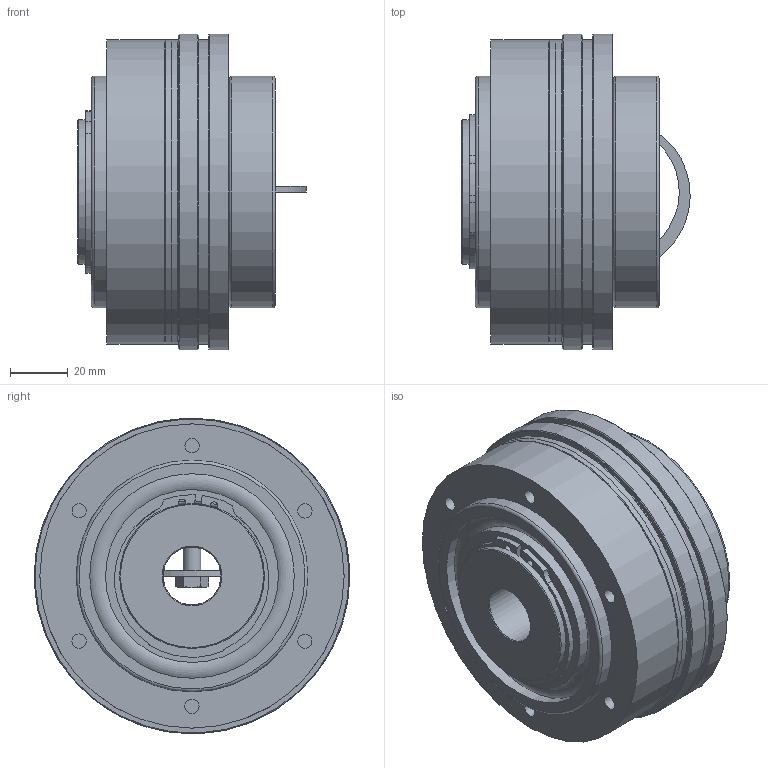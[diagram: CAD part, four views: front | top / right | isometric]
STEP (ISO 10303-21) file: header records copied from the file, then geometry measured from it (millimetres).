
FILE_DESCRIPTION( ( 'Unknown' ), '1' );
FILE_NAME( 'C:/Dokumente und Einstellungen/Sven/Desktop/hp kbk/KBK L-I-200.stp', 'Unknown', ( 'Unknown' ), ( 'Unknown' ), 'XStep 1.0', 'Unknown', ' ' );
FILE_SCHEMA( ( 'automotive_design' ) );
Length unit declared in the file: millimetre
Products named in the file (12): Assem1; Assem2; ball_bearing_-_6010_0_01; ball_bearing_-_6010_0_02; ball_bearing_-_6010_0_03; Stellring 200; Druckring 200; a_50; KBK L-I-200 Grundkörper; Konusbuchse 200; Flansch 200; din_en_24017_m6x25_0
Bounding box: 78.8 x 109 x 109 mm (x, y, z)
Volume: 739523.8 mm3; surface area: 271769.4 mm2
Topology: 28 solids, 28 shells, 499 faces, 1050 edges, 670 vertices
Faces by surface type: plane 201, cylinder 152, cone 114, torus 32
Full cylindrical faces by diameter (mm): 2.5 x4, 3.242 x6, 4.917 x30, 5.2 x12, 6 x7, 6.5 x12, 8.8 x7, 20 x4, 46 x2, 47 x2, 50 x7, 59.7 x6, 62 x2, 64 x2, 66 x4, 70.6 x6, 72 x2, 77 x2, 80 x5, 90 x2, 98 x2, 105 x4, 109 x2
Entity records: 5187 total; most frequent: CARTESIAN_POINT 1127, DIRECTION 854, ORIENTED_EDGE 552, AXIS2_PLACEMENT_3D 401, EDGE_LOOP 346, EDGE_CURVE 276, FACE_OUTER_BOUND 252, VERTEX_POINT 228
